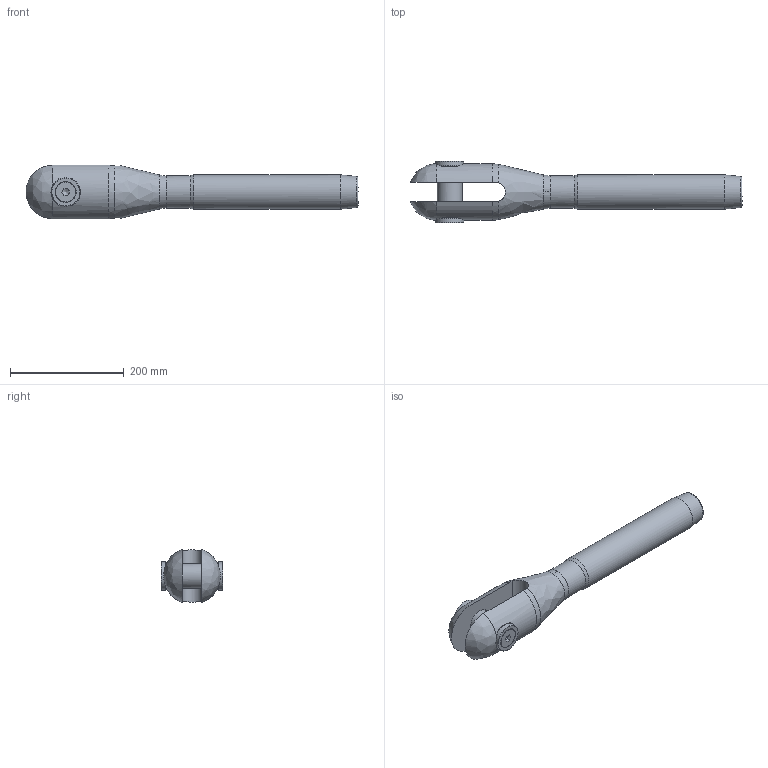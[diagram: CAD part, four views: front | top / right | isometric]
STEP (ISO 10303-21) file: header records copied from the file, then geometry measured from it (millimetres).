
FILE_DESCRIPTION(/* description */ (''),/* implementation_level */ '2;1');
FILE_NAME(/* name */ 'MAC 32_42CrMo4',/* time_stamp */ '2023-05-23T16:55:22+02:00',/* author */ (''),/* organization */ (''),/* preprocessor_version */ 'ST-DEVELOPER v16.5',/* originating_system */ 'Rhino 7.22',/* authorisation */ '');
FILE_SCHEMA (('CONFIG_CONTROL_DESIGN'));
Length unit declared in the file: millimetre
Products named in the file (1): Document
Bounding box: 585.02 x 108.79 x 94.04 mm (x, y, z)
Volume: 2033445.7 mm3; surface area: 194142.6 mm2
Topology: 6 solids, 6 shells, 75 faces, 210 edges, 145 vertices
Faces by surface type: plane 29, bspline 24, cylinder 22
Full cylindrical faces by diameter (mm): 17.294 x2, 20 x2, 21 x2, 35.4 x2, 44 x1, 46 x2, 50 x2, 57.2 x1, 60.5 x1
Entity records: 3170 total; most frequent: CARTESIAN_POINT 1823, ORIENTED_EDGE 412, EDGE_CURVE 206, VERTEX_POINT 145, EDGE_LOOP 85, B_SPLINE_CURVE_WITH_KNOTS 84, ADVANCED_FACE 75, FACE_OUTER_BOUND 75
